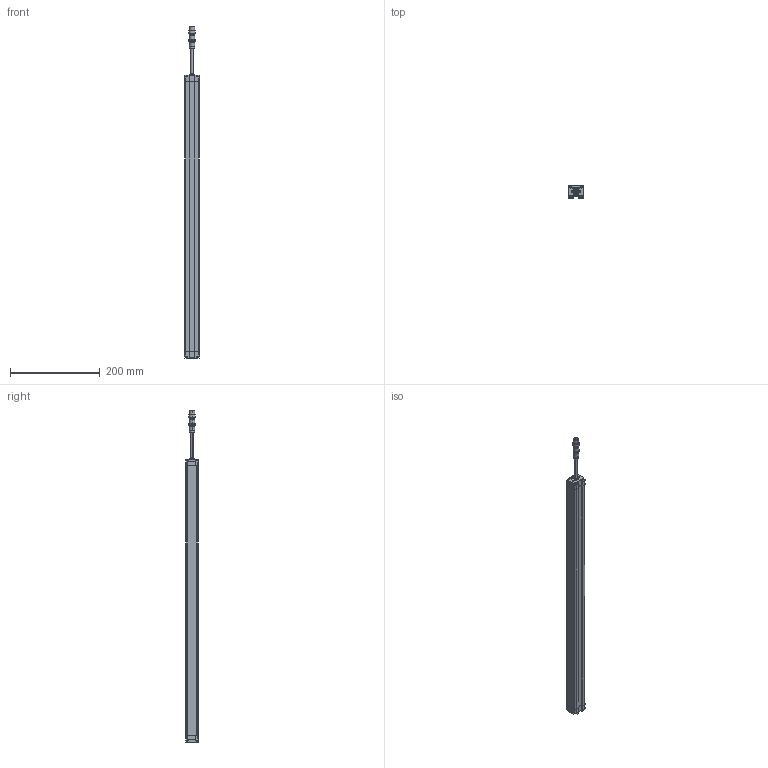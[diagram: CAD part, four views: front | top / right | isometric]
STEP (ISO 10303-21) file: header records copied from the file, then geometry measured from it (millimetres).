
FILE_DESCRIPTION((''),'2;1');
FILE_NAME('SMT1-CGQ_ASM','2025-08-08T08:27:40',('Administrator'),(''),'CREO PARAMETRIC BY PTC INC, 2016510','CREO PARAMETRIC BY PTC INC, 2016510','');
FILE_SCHEMA(('CONFIG_CONTROL_DESIGN'));
Length unit declared in the file: millimetre
Products named in the file (7): SMT1-XINGCAI-V1; SMT1-SDG-V1; SMT1-XDG-V1; M12-CHATOU; ST3X18; CT4-LVGUANGBAN; SMT1-CGQ_ASM
Assembly tree (13 placements, depth 2):
  SMT1-CGQ_ASM
    SMT1-XINGCAI-V1
    SMT1-SDG-V1
    SMT1-XDG-V1
    M12-CHATOU
    ST3X18  x8
    CT4-LVGUANGBAN
Bounding box: 33 x 28.02 x 739.5 mm (x, y, z)
Volume: 491629.2 mm3; surface area: 161253.1 mm2
Topology: 13 solids, 13 shells, 712 faces, 1868 edges, 1200 vertices
Faces by surface type: plane 382, cylinder 184, extrusion 86, sphere 32, cone 20, bspline 8
Entity records: 18128 total; most frequent: CARTESIAN_POINT 4347, ORIENTED_EDGE 2916, DIRECTION 2580, EDGE_CURVE 1458, VECTOR 1036, VERTEX_POINT 955, LINE 950, AXIS2_PLACEMENT_3D 772
